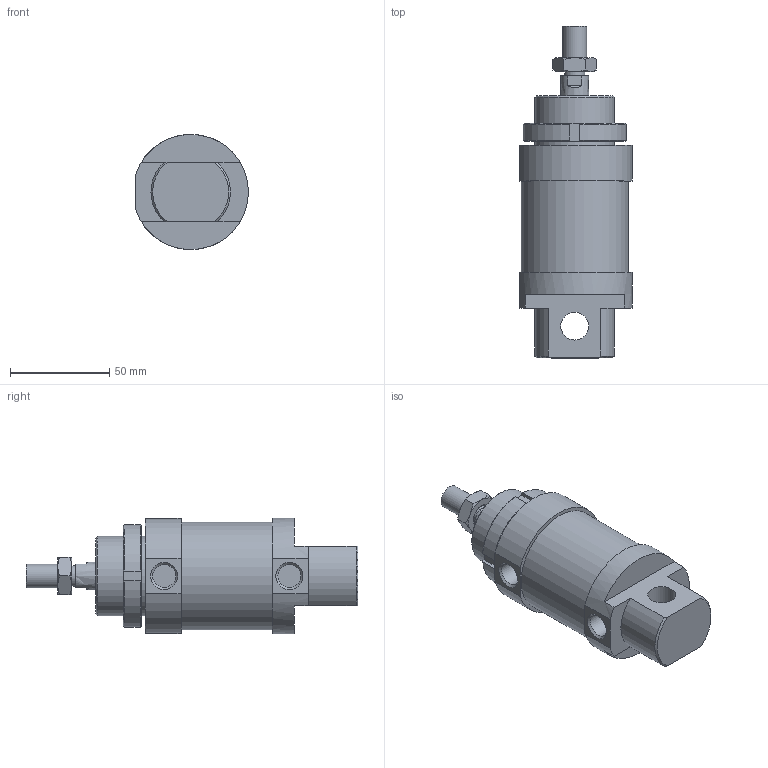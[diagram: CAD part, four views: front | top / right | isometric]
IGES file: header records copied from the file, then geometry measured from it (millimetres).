
Global section: file name: No Iges File Name specified; native system: AutoDesk Inventor R6.0; preprocessor: AutoDesk Inventor Iges Exporter R6.0; author: No Author specified; organization: No Organization specified; date: 20030402.144827; units: millimetre
Bounding box: 56.51 x 167 x 58 mm (x, y, z)
Surface area: 39005.1 mm2 (no closed solid volume)
Topology: 0 solids, 0 shells, 94 faces, 413 edges, 395 vertices
Faces by surface type: plane 44, revolution 39, bspline 11
